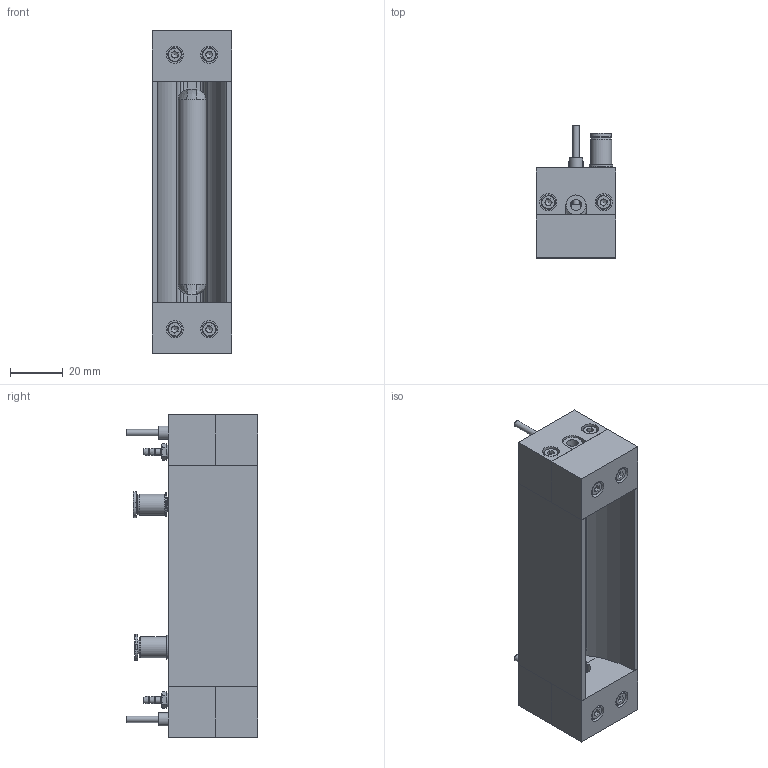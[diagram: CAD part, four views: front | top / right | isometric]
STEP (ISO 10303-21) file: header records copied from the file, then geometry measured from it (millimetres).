
FILE_DESCRIPTION(/* description */ (''),/* implementation_level */ '2;1');
FILE_NAME(/* name */ 'D:/ドキュメント/ACLT/その他/FTC_HP/LHW/3D/STEP/LHW30-L84_01.step',/* time_stamp */ '2018-09-19T16:47:30+09:00',/* author */ ('j.masuoka@mbe.nifty.com'),/* organization */ (''),/* preprocessor_version */ 'ST-DEVELOPER v17.2',/* originating_system */ 'Autodesk Translation Framework v7.6.0.251',/* authorisation */ '');
FILE_SCHEMA (('AUTOMOTIVE_DESIGN { 1 0 10303 214 3 1 1 }'));
Length unit declared in the file: millimetre
Products named in the file (28): LHW30-L84_01; 04_ランプ v5; 04d_シール部 v3; 04d_シール部 v3 (1); 04c_コイル2 v1; 04h_R7S v2; 04h_R7S v2 (1); 04i_リード v4; 04i_リード v4 (1); 04j_スリーブ v1; 04j_スリーブ v1 (1); 04g_チップ2 v3; 02_ホルダ上 v5; 03_ホルダ下 v2; 02_ホルダ上 v5 (1); 03_ホルダ下 v2 (1); BOX-SCB3-20 v2; BOX-SCB3-20 v2 (1); BOX-SCB3-20 v2 (2); BOX-SCB3-20 v2 (3); BOX-SCB3-20 v2 (4); BOX-SCB3-20 v2 (5); BOX-SCB3-20 v2 (7); BOX-SCB3-20 v2 (6); POC4-M6M v3 (1); POC4-M6M v3; LC-0425-M3 v3 (1); LC-0425-M3 v3
Assembly tree (27 placements, depth 3):
  LHW30-L84_01
    04_ランプ v5
      04d_シール部 v3
      04d_シール部 v3 (1)
      04c_コイル2 v1
      04h_R7S v2
      04h_R7S v2 (1)
      04i_リード v4
      04i_リード v4 (1)
      04j_スリーブ v1
      04j_スリーブ v1 (1)
      04g_チップ2 v3
    02_ホルダ上 v5
    03_ホルダ下 v2
    02_ホルダ上 v5 (1)
    03_ホルダ下 v2 (1)
    BOX-SCB3-20 v2
    BOX-SCB3-20 v2 (1)
    BOX-SCB3-20 v2 (2)
    BOX-SCB3-20 v2 (3)
    BOX-SCB3-20 v2 (4)
    BOX-SCB3-20 v2 (5)
    BOX-SCB3-20 v2 (7)
    BOX-SCB3-20 v2 (6)
    POC4-M6M v3 (1)
    POC4-M6M v3
    LC-0425-M3 v3 (1)
    LC-0425-M3 v3
Bounding box: 30 x 49.98 x 122 mm (x, y, z)
Volume: 86569.7 mm3; surface area: 39827.3 mm2
Topology: 28 solids, 28 shells, 455 faces, 1128 edges, 765 vertices
Faces by surface type: plane 276, cylinder 105, cone 55, bspline 10, torus 8, sphere 1
Full cylindrical faces by diameter (mm): 2.4 x4, 2.5 x5, 2.529 x10, 2.9 x4, 3 x10, 3.4 x8, 4 x2, 4.3 x2, 5 x4, 5.035 x2, 5.2 x2, 5.4 x2, 5.5 x10, 6 x2, 6.5 x8, 7.4 x2, 8 x2, 9 x2, 10.5 x1
Entity records: 15048 total; most frequent: CARTESIAN_POINT 2872, DIRECTION 2547, ORIENTED_EDGE 2224, EDGE_CURVE 1112, AXIS2_PLACEMENT_3D 978, VERTEX_POINT 765, LINE 591, VECTOR 591
